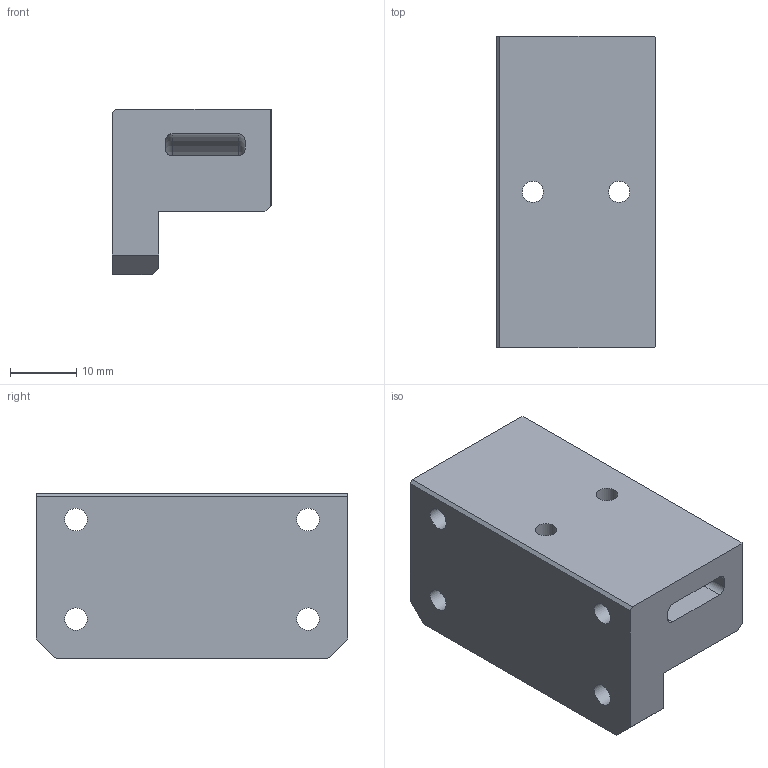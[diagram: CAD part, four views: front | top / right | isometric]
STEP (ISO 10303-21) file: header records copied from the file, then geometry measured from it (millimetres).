
FILE_DESCRIPTION (( 'STEP AP214' ), '1' );
FILE_NAME ('Belt_Clamp_Y.STEP', '2025-02-24T05:28:34', ( '' ), ( '' ), 'SwSTEP 2.0', 'SolidWorks 2021', '' );
FILE_SCHEMA (( 'AUTOMOTIVE_DESIGN' ));
Length unit declared in the file: millimetre
Products named in the file (1): Belt_Clamp_Y
Bounding box: 24 x 47 x 25 mm (x, y, z)
Volume: 16566 mm3; surface area: 7653.2 mm2
Topology: 1 solids, 1 shells, 98 faces, 258 edges, 163 vertices
Faces by surface type: cylinder 40, plane 39, torus 12, bspline 4, cone 3
Full cylindrical faces by diameter (mm): 3.2 x2, 3.4 x4, 6 x4, 6.5 x2
Entity records: 3344 total; most frequent: CARTESIAN_POINT 894, DIRECTION 524, ORIENTED_EDGE 476, EDGE_CURVE 238, AXIS2_PLACEMENT_3D 203, VERTEX_POINT 157, EDGE_LOOP 133, LINE 118
